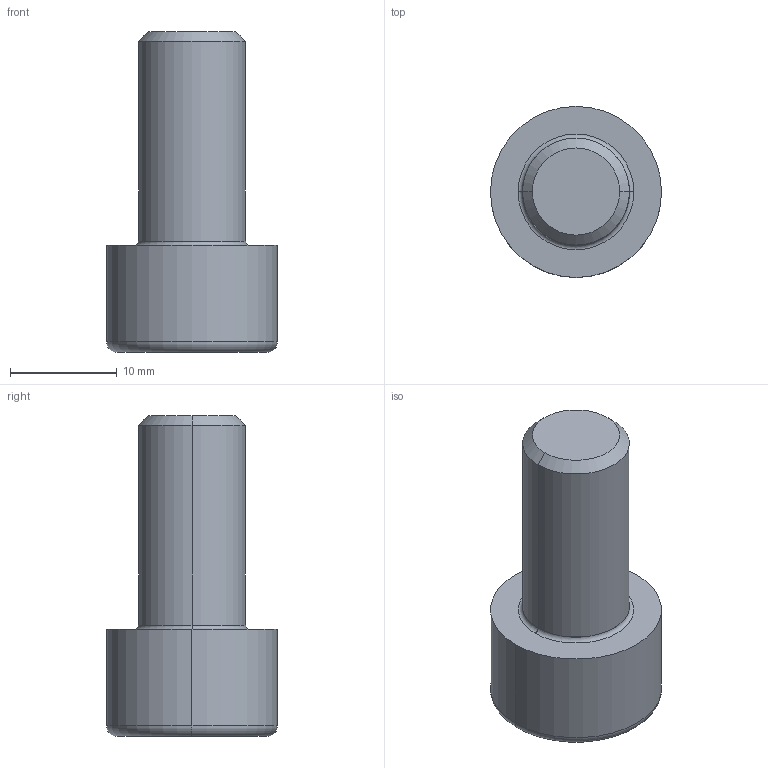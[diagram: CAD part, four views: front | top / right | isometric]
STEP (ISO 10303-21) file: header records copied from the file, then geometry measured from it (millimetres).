
FILE_DESCRIPTION(('STEP AP214'),'1');
FILE_NAME('cctmp_A441A550-E35A-45AD-A6BC-8F6FCD7F4955_2025_05_07_13_26_24_0222_8340..stp','2025-05-07T11:26:24',('KiM GmbH'),('CADClick - www.CADClick.com'),'Spatial InterOp 3D',' ','unknown authorization');
FILE_SCHEMA(('AUTOMOTIVE_DESIGN'));
Length unit declared in the file: millimetre
Products named in the file (1): E 1200_10x20
Bounding box: 16 x 16 x 30 mm (x, y, z)
Volume: 3282.5 mm3; surface area: 1626.3 mm2
Topology: 1 solids, 1 shells, 21 faces, 44 edges, 28 vertices
Faces by surface type: plane 11, cylinder 4, torus 4, cone 2
Entity records: 758 total; most frequent: DIRECTION 108, CARTESIAN_POINT 94, ORIENTED_EDGE 88, EDGE_CURVE 44, AXIS2_PLACEMENT_3D 42, VERTEX_POINT 28, EDGE_LOOP 24, LINE 24
